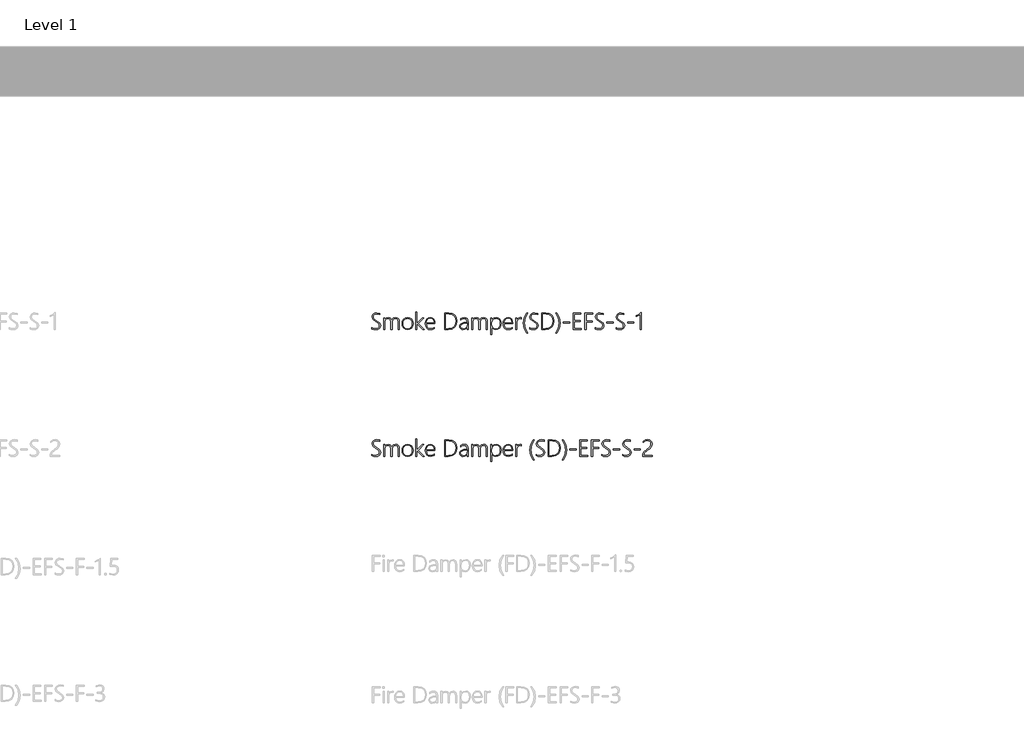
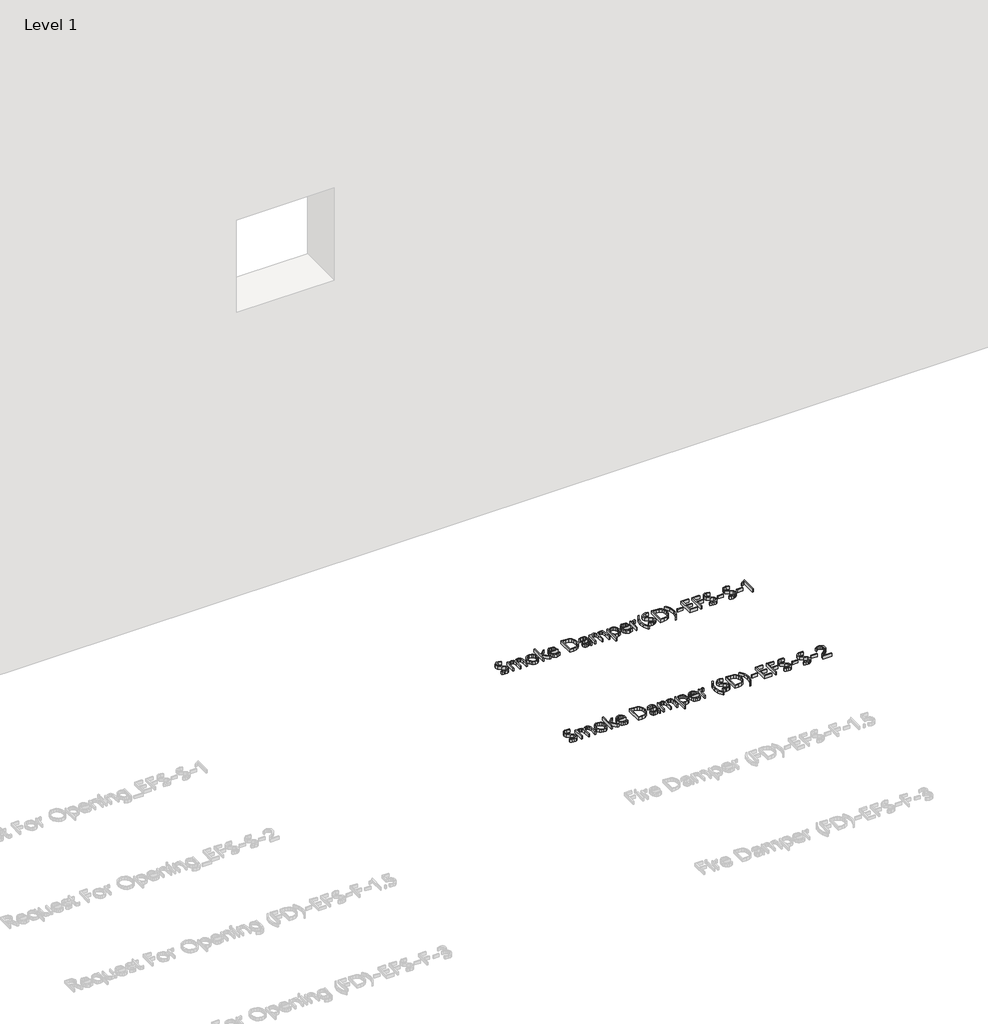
# One storey, part 13 of 13: 2 proxies.
"""IFC4 building model written with IfcOpenShell, lengths in millimetres."""

from ifc_helpers import new_model, si_unit, origin, origin_with_axes, place, context, project, spatial, polyline, outline, extrude, element, save

model = new_model("IFC4")

# Units and contexts
model_context = context("Model", 3, world=origin())
ifc_project = project(units=[si_unit("LENGTHUNIT", "METRE", prefix="MILLI")], contexts=[model_context])

# Site, building, storey
site = spatial("IfcSite", under=ifc_project)
building = spatial("IfcBuilding", under=site)
storey = spatial("IfcBuildingStorey", under=building, Name="Level 1", Elevation=0.0)

# Proxies
placement = place(None, origin())
element("IfcBuildingElementProxy", 1, Name="24\" Arial", ObjectType="24\" Arial", at=placement, inside=storey, context=model_context, shape_type="SweptSolid", body=[
    extrude(outline(polyline([(-11442.1825448, 9248.0391613), (-11442.1825448, 9255.8943909), (-11431.3741655, 9250.7840284), (-11420.4318902, 9249.0805743), (-11402.638605, 9253.9157062), (-11398.0861424, 9259.7215837), (-11396.5686548, 9267.4689527), (-11400.6599202, 9279.7129942), (-11418.3490641, 9292.1653184), (-11437.5854502, 9306.9980152), (-11441.6172063, 9320.7595443), (-11439.5604156, 9330.552546), (-11433.3900435, 9338.7462348), (-11423.7904471, 9344.2917591), (-11411.4459836, 9346.1402672), (-11393.5931891, 9343.1350468), (-11393.5931891, 9335.904665), (-11412.3386233, 9339.8620345), (-11428.480525, 9334.6996014), (-11432.9548817, 9328.8416532), (-11434.4463339, 9321.5926747), (-11430.3699458, 9309.3932651), (-11412.7551885, 9297.0450823), (-11394.0990182, 9282.9264973), (-11389.4572917, 9268.7484029), (-11391.4545731, 9258.2970795), (-11397.4464172, 9249.973214), (-11407.0832069, 9244.5281117), (-11420.015325, 9242.7130776), (-11431.9023107, 9244.3198291), (-11442.1825448, 9248.0391613)])), origin_with_axes(), (0.0, 0.0, 1.0), 20.0),
    extrude(outline(polyline([(-11280.4362264, 9244.4686024), (-11280.4362264, 9287.4343279), (-11284.6613878, 9306.3285354), (-11290.1139288, 9310.4123622), (-11298.021229, 9311.7736377), (-11305.8727393, 9309.9586036), (-11312.5861339, 9304.5135013), (-11317.1943865, 9296.3309705), (-11318.7304707, 9286.3036509), (-11318.7304707, 9244.4686024), (-11325.1574767, 9244.4686024), (-11325.1574767, 9287.9104024), (-11329.6876233, 9305.8078289), (-11335.3503066, 9310.2821855), (-11343.2780632, 9311.7736377), (-11351.2634694, 9309.951165), (-11357.7834587, 9304.4837467), (-11362.1239194, 9296.1226879), (-11363.5707396, 9285.6192938), (-11363.5707396, 9244.4686024), (-11369.9977456, 9244.4686024), (-11369.9977456, 9315.8797805), (-11363.5707396, 9315.8797805), (-11363.5707396, 9304.0374268), (-11354.1087585, 9314.2358357), (-11341.463029, 9317.6353053), (-11328.1180651, 9313.1274747), (-11320.6050141, 9301.2999983), (-11311.0240144, 9313.3357573), (-11297.4558905, 9317.6353053), (-11287.21099, 9315.8221308), (-11279.8932039, 9310.3826075), (-11275.5025323, 9301.3167353), (-11274.038975, 9288.6245142), (-11274.038975, 9244.4686024), (-11280.4362264, 9244.4686024)])), origin_with_axes(), (0.0, 0.0, 1.0), 20.0),
    extrude(outline(polyline([(-11223.2477746, 9242.7130776), (-11237.2399023, 9245.2868555), (-11247.973895, 9253.0081891), (-11254.8025889, 9264.8431041), (-11257.0788202, 9279.7576262), (-11254.6984476, 9295.6131394), (-11247.5573298, 9307.5931084), (-11236.5332292, 9315.1247561), (-11222.5039082, 9317.6353053), (-11208.820485, 9315.1396334), (-11198.3580036, 9307.6526177), (-11191.7189956, 9295.754474), (-11189.505993, 9280.0254181), (-11191.7636276, 9264.9472454), (-11198.5365315, 9253.0379438), (-11209.2296116, 9245.2942941), (-11223.2477746, 9242.7130776)]), holes=[polyline([(-11222.7717001, 9311.7736377), (-11234.1082246, 9309.6461797), (-11242.8858486, 9303.2638057), (-11248.5094789, 9293.0951515), (-11250.3840223, 9279.6088529), (-11248.5541109, 9266.9705622), (-11243.0643765, 9257.0845772), (-11234.3983325, 9250.7022031), (-11223.039492, 9248.5747451), (-11211.6323002, 9250.6687291), (-11203.1782581, 9256.9506812), (-11197.9451577, 9266.9445268), (-11196.2007909, 9280.1741914), (-11197.9339997, 9293.6642093), (-11203.1336261, 9303.6059843), (-11211.5095622, 9309.7317244), (-11222.7717001, 9311.7736377)])]), origin_with_axes(), (0.0, 0.0, 1.0), 20.0),
    extrude(outline(polyline([(-11131.0678455, 9244.4686024), (-11165.2559471, 9279.7576262), (-11165.523739, 9244.4686024), (-11171.950745, 9244.4686024), (-11171.950745, 9350.1869006), (-11165.523739, 9350.1869006), (-11165.523739, 9282.0487349), (-11132.8233703, 9315.8797805), (-11124.5218209, 9315.8797805), (-11158.4123758, 9281.3048684), (-11121.7843924, 9244.4686024), (-11131.0678455, 9244.4686024)])), origin_with_axes(), (0.0, 0.0, 1.0), 20.0),
    extrude(outline(polyline([(-11107.5616661, 9279.9063995), (-11105.8619313, 9266.7845955), (-11100.7627268, 9256.8762946), (-11092.702934, 9250.6501325), (-11082.1214339, 9248.5747451), (-11070.2493255, 9250.7914671), (-11058.6747637, 9257.4416331), (-11058.6747637, 9250.5980618), (-11070.4129761, 9244.6843237), (-11083.4306388, 9242.7130776), (-11095.9127177, 9245.1901528), (-11105.746632, 9252.6213786), (-11112.129006, 9264.5678736), (-11114.256464, 9280.5907566), (-11112.0323034, 9294.9845722), (-11105.3598214, 9306.9236286), (-11095.1316579, 9314.9573861), (-11082.2404525, 9317.6353053), (-11070.4836435, 9315.2958453), (-11061.8138801, 9308.2774655), (-11056.4691997, 9297.2198909), (-11054.6876396, 9282.7628466), (-11054.6876396, 9279.9063995), (-11107.5616661, 9279.9063995)]), holes=[polyline([(-11061.3824376, 9285.7680671), (-11063.0933304, 9296.717781), (-11067.3333691, 9304.9300665), (-11073.8868324, 9310.0627449), (-11082.5379991, 9311.7736377), (-11091.7061529, 9310.0887803), (-11099.1559753, 9305.0342078), (-11104.4857784, 9296.8479577), (-11107.2938742, 9285.7680671), (-11061.3824376, 9285.7680671)])]), origin_with_axes(), (0.0, 0.0, 1.0), 20.0),
    extrude(outline(polyline([(-10995.3568525, 9244.4686024), (-10995.3568525, 9344.4740064), (-10970.3034308, 9344.4740064), (-10948.4040029, 9341.3720833), (-10932.4555064, 9332.0663142), (-10922.7257334, 9316.8096135), (-10919.4824757, 9295.854896), (-10922.9600513, 9275.1493736), (-10933.3927781, 9258.7359607), (-10949.9475257, 9248.035442), (-10971.7911637, 9244.4686024), (-10995.3568525, 9244.4686024)]), holes=[polyline([(-10988.4537719, 9338.1362643), (-10988.4537719, 9250.7468351), (-10972.7433127, 9250.7468351), (-10953.0903614, 9253.6330369), (-10938.5849659, 9262.2916423), (-10929.6362526, 9276.3879113), (-10926.6533482, 9295.587104), (-10929.4465667, 9314.2023617), (-10937.8262221, 9327.4989743), (-10951.7923145, 9335.4769418), (-10971.3448438, 9338.1362643), (-10988.4537719, 9338.1362643)])]), origin_with_axes(), (0.0, 0.0, 1.0), 20.0),
    extrude(outline(polyline([(-10856.9381856, 9244.4686024), (-10856.9381856, 9258.750838), (-10867.1589105, 9247.0721349), (-10881.6345513, 9242.7130776), (-10890.7506346, 9244.1450205), (-10897.7466984, 9248.4408492), (-10902.198739, 9254.9162065), (-10903.6827526, 9262.8867354), (-10902.1355104, 9271.3054438), (-10897.4937838, 9277.8756441), (-10878.9268775, 9285.4705205), (-10856.9381856, 9288.7435328), (-10861.2600496, 9306.0161115), (-10866.6623796, 9310.3342562), (-10874.2256416, 9311.7736377), (-10885.87459, 9309.4007038), (-10897.1962372, 9302.281902), (-10897.1962372, 9310.018113), (-10886.4101739, 9315.403706), (-10873.6007938, 9317.6353053), (-10863.8375468, 9315.9244125), (-10856.5662524, 9310.7917341), (-10852.0472637, 9302.4009206), (-10850.5409342, 9290.9156228), (-10850.5409342, 9244.4686024), (-10856.9381856, 9244.4686024)]), holes=[polyline([(-10876.6060142, 9280.0254181), (-10892.3759827, 9274.8332304), (-10896.8986907, 9263.1545273), (-10892.6884066, 9252.6957652), (-10880.9204396, 9248.5747451), (-10871.4882131, 9250.4864819), (-10863.7817568, 9256.2216921), (-10858.6490784, 9264.9695614), (-10856.9381856, 9275.9192754), (-10856.9381856, 9282.8818653), (-10876.6060142, 9280.0254181)])]), origin_with_axes(), (0.0, 0.0, 1.0), 20.0),
    extrude(outline(polyline([(-10739.6155709, 9244.4686024), (-10739.6155709, 9287.4343279), (-10743.8407323, 9306.3285354), (-10749.2932733, 9310.4123622), (-10757.2005735, 9311.7736377), (-10765.0520838, 9309.9586036), (-10771.7654784, 9304.5135013), (-10776.3737309, 9296.3309705), (-10777.9098151, 9286.3036509), (-10777.9098151, 9244.4686024), (-10784.3368212, 9244.4686024), (-10784.3368212, 9287.9104024), (-10788.8669678, 9305.8078289), (-10794.529651, 9310.2821855), (-10802.4574076, 9311.7736377), (-10810.4428138, 9309.951165), (-10816.9628032, 9304.4837467), (-10821.3032638, 9296.1226879), (-10822.7500841, 9285.6192938), (-10822.7500841, 9244.4686024), (-10829.1770901, 9244.4686024), (-10829.1770901, 9315.8797805), (-10822.7500841, 9315.8797805), (-10822.7500841, 9304.0374268), (-10813.288103, 9314.2358357), (-10800.6423735, 9317.6353053), (-10787.2974096, 9313.1274747), (-10779.7843586, 9301.2999983), (-10770.2033588, 9313.3357573), (-10756.635235, 9317.6353053), (-10746.3903345, 9315.8221308), (-10739.0725484, 9310.3826075), (-10734.6818767, 9301.3167353), (-10733.2183195, 9288.6245142), (-10733.2183195, 9244.4686024), (-10739.6155709, 9244.4686024)])), origin_with_axes(), (0.0, 0.0, 1.0), 20.0),
    extrude(outline(polyline([(-10704.415811, 9257.1738412), (-10704.6836029, 9211.6194605), (-10711.110609, 9211.6194605), (-10711.110609, 9315.8797805), (-10704.6836029, 9315.8797805), (-10704.6836029, 9301.151225), (-10693.421465, 9313.3357573), (-10677.6961285, 9317.6353053), (-10665.5897022, 9315.2884067), (-10656.4661804, 9308.2477108), (-10650.7421281, 9297.1826976), (-10648.8341107, 9282.7628466), (-10651.021078, 9266.5428389), (-10657.58198, 9253.7669329), (-10667.7357569, 9245.4765414), (-10680.7013489, 9242.7130776), (-10694.6488447, 9246.3282685), (-10704.415811, 9257.1738412)]), holes=[polyline([(-10704.6836029, 9283.7447503), (-10704.6836029, 9274.7290891), (-10702.9913068, 9264.7464015), (-10697.9144183, 9256.2812014), (-10690.0852241, 9250.5013592), (-10680.1360105, 9248.5747451), (-10670.2165515, 9250.9216437), (-10662.3576026, 9257.9623396), (-10657.2360821, 9268.8190703), (-10655.5289087, 9282.6140734), (-10657.0984668, 9294.6275163), (-10661.8071414, 9303.8886535), (-10669.1267872, 9309.8023917), (-10678.5292589, 9311.7736377), (-10689.6091495, 9309.6796537), (-10697.854909, 9303.3977017), (-10702.9764295, 9294.2964958), (-10704.6836029, 9283.7447503)])]), origin_with_axes(), (0.0, 0.0, 1.0), 20.0),
    extrude(outline(polyline([(-10629.5828473, 9279.9063995), (-10627.8831125, 9266.7845955), (-10622.783908, 9256.8762946), (-10614.7241152, 9250.6501325), (-10604.1426151, 9248.5747451), (-10592.2705067, 9250.7914671), (-10580.6959449, 9257.4416331), (-10580.6959449, 9250.5980618), (-10592.4341573, 9244.6843237), (-10605.45182, 9242.7130776), (-10617.9338989, 9245.1901528), (-10627.7678132, 9252.6213786), (-10634.1501872, 9264.5678736), (-10636.2776452, 9280.5907566), (-10634.0534846, 9294.9845722), (-10627.3810026, 9306.9236286), (-10617.1528391, 9314.9573861), (-10604.2616337, 9317.6353053), (-10592.5048247, 9315.2958453), (-10583.8350613, 9308.2774655), (-10578.4903809, 9297.2198909), (-10576.7088208, 9282.7628466), (-10576.7088208, 9279.9063995), (-10629.5828473, 9279.9063995)]), holes=[polyline([(-10583.4036188, 9285.7680671), (-10585.1145116, 9296.717781), (-10589.3545503, 9304.9300665), (-10595.9080136, 9310.0627449), (-10604.5591803, 9311.7736377), (-10613.7273341, 9310.0887803), (-10621.1771565, 9305.0342078), (-10626.5069596, 9296.8479577), (-10629.3150554, 9285.7680671), (-10583.4036188, 9285.7680671)])]), origin_with_axes(), (0.0, 0.0, 1.0), 20.0),
    extrude(outline(polyline([(-10525.08449, 9309.1849825), (-10532.6124183, 9311.4760912), (-10540.3597873, 9309.2965625), (-10546.760758, 9302.7579765), (-10551.0565867, 9292.2099504), (-10552.4885296, 9278.0021014), (-10552.4885296, 9244.4686024), (-10558.7667623, 9244.4686024), (-10558.7667623, 9315.8797805), (-10552.4885296, 9315.8797805), (-10552.4885296, 9300.0503027), (-10544.454772, 9312.7406641), (-10532.1958531, 9317.2782494), (-10525.08449, 9316.0285538), (-10525.08449, 9309.1849825)])), origin_with_axes(), (0.0, 0.0, 1.0), 20.0),
    extrude(outline(polyline([(-10490.9856524, 9221.736044), (-10506.8300076, 9249.2665409), (-10512.1114593, 9282.4653001), (-10506.7630596, 9316.8021749), (-10490.7178605, 9344.4740064), (-10483.8742893, 9344.4740064), (-10500.2542283, 9316.4525576), (-10505.7142079, 9282.6140734), (-10500.3286149, 9250.062478), (-10484.1718359, 9221.736044), (-10490.9856524, 9221.736044)])), origin_with_axes(), (0.0, 0.0, 1.0), 20.0),
    extrude(outline(polyline([(-10472.8948207, 9248.0391613), (-10472.8948207, 9255.8943909), (-10462.0864413, 9250.7840284), (-10451.144166, 9249.0805743), (-10433.3508808, 9253.9157062), (-10428.7984182, 9259.7215837), (-10427.2809306, 9267.4689527), (-10431.372196, 9279.7129942), (-10449.06134, 9292.1653184), (-10468.2977261, 9306.9980152), (-10472.3294822, 9320.7595443), (-10470.2726915, 9330.552546), (-10464.1023193, 9338.7462348), (-10454.502723, 9344.2917591), (-10442.1582594, 9346.1402672), (-10424.3054649, 9343.1350468), (-10424.3054649, 9335.904665), (-10443.0508991, 9339.8620345), (-10459.1928009, 9334.6996014), (-10463.6671575, 9328.8416532), (-10465.1586097, 9321.5926747), (-10461.0822216, 9309.3932651), (-10443.4674643, 9297.0450823), (-10424.8112941, 9282.9264973), (-10420.1695675, 9268.7484029), (-10422.1668489, 9258.2970795), (-10428.158693, 9249.973214), (-10437.7954827, 9244.5281117), (-10450.7276008, 9242.7130776), (-10462.6145865, 9244.3198291), (-10472.8948207, 9248.0391613)])), origin_with_axes(), (0.0, 0.0, 1.0), 20.0),
    extrude(outline(polyline([(-10399.3115525, 9244.4686024), (-10399.3115525, 9344.4740064), (-10374.2581309, 9344.4740064), (-10352.3587029, 9341.3720833), (-10336.4102065, 9332.0663142), (-10326.6804335, 9316.8096135), (-10323.4371758, 9295.854896), (-10326.9147514, 9275.1493736), (-10337.3474782, 9258.7359607), (-10353.9022258, 9248.035442), (-10375.7458638, 9244.4686024), (-10399.3115525, 9244.4686024)]), holes=[polyline([(-10392.408472, 9338.1362643), (-10392.408472, 9250.7468351), (-10376.6980128, 9250.7468351), (-10357.0450615, 9253.6330369), (-10342.5396659, 9262.2916423), (-10333.5909527, 9276.3879113), (-10330.6080483, 9295.587104), (-10333.4012668, 9314.2023617), (-10341.7809222, 9327.4989743), (-10355.7470146, 9335.4769418), (-10375.2995439, 9338.1362643), (-10392.408472, 9338.1362643)])]), origin_with_axes(), (0.0, 0.0, 1.0), 20.0),
    extrude(outline(polyline([(-10306.2984931, 9221.736044), (-10313.1420643, 9221.736044), (-10296.9629693, 9250.062478), (-10291.5699376, 9282.6140734), (-10297.0299172, 9316.4525576), (-10313.4098562, 9344.4740064), (-10306.566285, 9344.4740064), (-10290.5210859, 9316.7277882), (-10285.1726862, 9282.4653001), (-10290.4541379, 9249.1921543), (-10306.2984931, 9221.736044)])), origin_with_axes(), (0.0, 0.0, 1.0), 20.0),
    extrude(outline(polyline([(-10264.9097644, 9283.1794118), (-10264.9097644, 9289.4576446), (-10226.7642934, 9289.4576446), (-10226.7642934, 9283.1794118), (-10264.9097644, 9283.1794118)])), origin_with_axes(), (0.0, 0.0, 1.0), 20.0),
    extrude(outline(polyline([(-10205.0731481, 9244.4686024), (-10205.0731481, 9344.4740064), (-10158.3285811, 9344.4740064), (-10158.3285811, 9338.1362643), (-10198.1700675, 9338.1362643), (-10198.1700675, 9298.026986), (-10161.2147829, 9298.026986), (-10161.2147829, 9291.7487532), (-10198.1700675, 9291.7487532), (-10198.1700675, 9250.7468351), (-10156.0374725, 9250.7468351), (-10156.0374725, 9244.4686024), (-10205.0731481, 9244.4686024)])), origin_with_axes(), (0.0, 0.0, 1.0), 20.0),
    extrude(outline(polyline([(-10125.8067404, 9338.1362643), (-10125.8067404, 9297.3426288), (-10088.8514557, 9297.3426288), (-10088.8514557, 9291.0643961), (-10125.8067404, 9291.0643961), (-10125.8067404, 9244.4686024), (-10132.7098209, 9244.4686024), (-10132.7098209, 9344.4740064), (-10085.9652539, 9344.4740064), (-10085.9652539, 9338.1362643), (-10125.8067404, 9338.1362643)])), origin_with_axes(), (0.0, 0.0, 1.0), 20.0),
    extrude(outline(polyline([(-10069.1836271, 9248.0391613), (-10069.1836271, 9255.8943909), (-10058.3752477, 9250.7840284), (-10047.4329724, 9249.0805743), (-10029.6396872, 9253.9157062), (-10025.0872246, 9259.7215837), (-10023.5697371, 9267.4689527), (-10027.6610025, 9279.7129942), (-10045.3501464, 9292.1653184), (-10064.5865325, 9306.9980152), (-10068.6182886, 9320.7595443), (-10066.5614979, 9330.552546), (-10060.3911258, 9338.7462348), (-10050.7915294, 9344.2917591), (-10038.4470658, 9346.1402672), (-10020.5942713, 9343.1350468), (-10020.5942713, 9335.904665), (-10039.3397056, 9339.8620345), (-10055.4816073, 9334.6996014), (-10059.9559639, 9328.8416532), (-10061.4474161, 9321.5926747), (-10057.371028, 9309.3932651), (-10039.7562708, 9297.0450823), (-10021.1001005, 9282.9264973), (-10016.4583739, 9268.7484029), (-10018.4556553, 9258.2970795), (-10024.4474995, 9249.973214), (-10034.0842892, 9244.5281117), (-10047.0164072, 9242.7130776), (-10058.9033929, 9244.3198291), (-10069.1836271, 9248.0391613)])), origin_with_axes(), (0.0, 0.0, 1.0), 20.0),
    extrude(outline(polyline([(-9998.3080328, 9283.1794118), (-9998.3080328, 9289.4576446), (-9960.1625618, 9289.4576446), (-9960.1625618, 9283.1794118), (-9998.3080328, 9283.1794118)])), origin_with_axes(), (0.0, 0.0, 1.0), 20.0),
    extrude(outline(polyline([(-9941.5956555, 9248.0391613), (-9941.5956555, 9255.8943909), (-9930.7872762, 9250.7840284), (-9919.8450009, 9249.0805743), (-9902.0517157, 9253.9157062), (-9897.4992531, 9259.7215837), (-9895.9817655, 9267.4689527), (-9900.0730309, 9279.7129942), (-9917.7621748, 9292.1653184), (-9936.9985609, 9306.9980152), (-9941.030317, 9320.7595443), (-9938.9735263, 9330.552546), (-9932.8031542, 9338.7462348), (-9923.2035578, 9344.2917591), (-9910.8590943, 9346.1402672), (-9893.0062998, 9343.1350468), (-9893.0062998, 9335.904665), (-9911.751734, 9339.8620345), (-9927.8936357, 9334.6996014), (-9932.3679924, 9328.8416532), (-9933.8594446, 9321.5926747), (-9929.7830565, 9309.3932651), (-9912.1682992, 9297.0450823), (-9893.5121289, 9282.9264973), (-9888.8704024, 9268.7484029), (-9890.8676838, 9258.2970795), (-9896.8595279, 9249.973214), (-9906.4963176, 9244.5281117), (-9919.4284357, 9242.7130776), (-9931.3154214, 9244.3198291), (-9941.5956555, 9248.0391613)])), origin_with_axes(), (0.0, 0.0, 1.0), 20.0),
    extrude(outline(polyline([(-9870.7200613, 9283.1794118), (-9870.7200613, 9289.4576446), (-9832.5745903, 9289.4576446), (-9832.5745903, 9283.1794118), (-9870.7200613, 9283.1794118)])), origin_with_axes(), (0.0, 0.0, 1.0), 20.0),
    extrude(outline(polyline([(-9787.0202096, 9346.7056057), (-9787.0202096, 9244.4686024), (-9793.4472156, 9244.4686024), (-9793.4472156, 9336.5890221), (-9804.4266843, 9328.6296512), (-9817.9055441, 9322.7233517), (-9817.9055441, 9328.5850193), (-9809.7676453, 9331.8877863), (-9802.5521408, 9335.9641743), (-9795.8573429, 9340.8736928), (-9789.2518089, 9346.7056057), (-9787.0202096, 9346.7056057)])), origin_with_axes(), (0.0, 0.0, 1.0), 20.0),
])
element("IfcBuildingElementProxy", 2, Name="24\" Arial", ObjectType="24\" Arial", at=placement, inside=storey, context=model_context, shape_type="SweptSolid", body=[
    extrude(outline(polyline([(-11442.1825448, 8468.0391613), (-11442.1825448, 8475.8943909), (-11431.3741655, 8470.7840284), (-11420.4318902, 8469.0805743), (-11402.638605, 8473.9157062), (-11398.0861424, 8479.7215837), (-11396.5686548, 8487.4689527), (-11400.6599202, 8499.7129942), (-11418.3490641, 8512.1653184), (-11437.5854502, 8526.9980152), (-11441.6172063, 8540.7595443), (-11439.5604156, 8550.552546), (-11433.3900435, 8558.7462348), (-11423.7904471, 8564.2917591), (-11411.4459836, 8566.1402672), (-11393.5931891, 8563.1350468), (-11393.5931891, 8555.904665), (-11412.3386233, 8559.8620345), (-11428.480525, 8554.6996014), (-11432.9548817, 8548.8416532), (-11434.4463339, 8541.5926747), (-11430.3699458, 8529.3932651), (-11412.7551885, 8517.0450823), (-11394.0990182, 8502.9264973), (-11389.4572917, 8488.7484029), (-11391.4545731, 8478.2970795), (-11397.4464172, 8469.973214), (-11407.0832069, 8464.5281117), (-11420.015325, 8462.7130776), (-11431.9023107, 8464.3198291), (-11442.1825448, 8468.0391613)])), origin_with_axes(), (0.0, 0.0, 1.0), 20.0),
    extrude(outline(polyline([(-11280.4362264, 8464.4686024), (-11280.4362264, 8507.4343279), (-11284.6613878, 8526.3285354), (-11290.1139288, 8530.4123622), (-11298.021229, 8531.7736377), (-11305.8727393, 8529.9586036), (-11312.5861339, 8524.5135013), (-11317.1943865, 8516.3309705), (-11318.7304707, 8506.3036509), (-11318.7304707, 8464.4686024), (-11325.1574767, 8464.4686024), (-11325.1574767, 8507.9104024), (-11329.6876233, 8525.8078289), (-11335.3503066, 8530.2821855), (-11343.2780632, 8531.7736377), (-11351.2634694, 8529.951165), (-11357.7834587, 8524.4837467), (-11362.1239194, 8516.1226879), (-11363.5707396, 8505.6192938), (-11363.5707396, 8464.4686024), (-11369.9977456, 8464.4686024), (-11369.9977456, 8535.8797805), (-11363.5707396, 8535.8797805), (-11363.5707396, 8524.0374268), (-11354.1087585, 8534.2358357), (-11341.463029, 8537.6353053), (-11328.1180651, 8533.1274747), (-11320.6050141, 8521.2999983), (-11311.0240144, 8533.3357573), (-11297.4558905, 8537.6353053), (-11287.21099, 8535.8221308), (-11279.8932039, 8530.3826075), (-11275.5025323, 8521.3167353), (-11274.038975, 8508.6245142), (-11274.038975, 8464.4686024), (-11280.4362264, 8464.4686024)])), origin_with_axes(), (0.0, 0.0, 1.0), 20.0),
    extrude(outline(polyline([(-11223.2477746, 8462.7130776), (-11237.2399023, 8465.2868555), (-11247.973895, 8473.0081891), (-11254.8025889, 8484.8431041), (-11257.0788202, 8499.7576262), (-11254.6984476, 8515.6131394), (-11247.5573298, 8527.5931084), (-11236.5332292, 8535.1247561), (-11222.5039082, 8537.6353053), (-11208.820485, 8535.1396334), (-11198.3580036, 8527.6526177), (-11191.7189956, 8515.754474), (-11189.505993, 8500.0254181), (-11191.7636276, 8484.9472454), (-11198.5365315, 8473.0379438), (-11209.2296116, 8465.2942941), (-11223.2477746, 8462.7130776)]), holes=[polyline([(-11222.7717001, 8531.7736377), (-11234.1082246, 8529.6461797), (-11242.8858486, 8523.2638057), (-11248.5094789, 8513.0951515), (-11250.3840223, 8499.6088529), (-11248.5541109, 8486.9705622), (-11243.0643765, 8477.0845772), (-11234.3983325, 8470.7022031), (-11223.039492, 8468.5747451), (-11211.6323002, 8470.6687291), (-11203.1782581, 8476.9506812), (-11197.9451577, 8486.9445268), (-11196.2007909, 8500.1741914), (-11197.9339997, 8513.6642093), (-11203.1336261, 8523.6059843), (-11211.5095622, 8529.7317244), (-11222.7717001, 8531.7736377)])]), origin_with_axes(), (0.0, 0.0, 1.0), 20.0),
    extrude(outline(polyline([(-11131.0678455, 8464.4686024), (-11165.2559471, 8499.7576262), (-11165.523739, 8464.4686024), (-11171.950745, 8464.4686024), (-11171.950745, 8570.1869006), (-11165.523739, 8570.1869006), (-11165.523739, 8502.0487349), (-11132.8233703, 8535.8797805), (-11124.5218209, 8535.8797805), (-11158.4123758, 8501.3048684), (-11121.7843924, 8464.4686024), (-11131.0678455, 8464.4686024)])), origin_with_axes(), (0.0, 0.0, 1.0), 20.0),
    extrude(outline(polyline([(-11107.5616661, 8499.9063995), (-11105.8619313, 8486.7845955), (-11100.7627268, 8476.8762946), (-11092.702934, 8470.6501325), (-11082.1214339, 8468.5747451), (-11070.2493255, 8470.7914671), (-11058.6747637, 8477.4416331), (-11058.6747637, 8470.5980618), (-11070.4129761, 8464.6843237), (-11083.4306388, 8462.7130776), (-11095.9127177, 8465.1901528), (-11105.746632, 8472.6213786), (-11112.129006, 8484.5678736), (-11114.256464, 8500.5907566), (-11112.0323034, 8514.9845722), (-11105.3598214, 8526.9236286), (-11095.1316579, 8534.9573861), (-11082.2404525, 8537.6353053), (-11070.4836435, 8535.2958453), (-11061.8138801, 8528.2774655), (-11056.4691997, 8517.2198909), (-11054.6876396, 8502.7628466), (-11054.6876396, 8499.9063995), (-11107.5616661, 8499.9063995)]), holes=[polyline([(-11061.3824376, 8505.7680671), (-11063.0933304, 8516.717781), (-11067.3333691, 8524.9300665), (-11073.8868324, 8530.0627449), (-11082.5379991, 8531.7736377), (-11091.7061529, 8530.0887803), (-11099.1559753, 8525.0342078), (-11104.4857784, 8516.8479577), (-11107.2938742, 8505.7680671), (-11061.3824376, 8505.7680671)])]), origin_with_axes(), (0.0, 0.0, 1.0), 20.0),
    extrude(outline(polyline([(-10995.3568525, 8464.4686024), (-10995.3568525, 8564.4740064), (-10970.3034308, 8564.4740064), (-10948.4040029, 8561.3720833), (-10932.4555064, 8552.0663142), (-10922.7257334, 8536.8096135), (-10919.4824757, 8515.854896), (-10922.9600513, 8495.1493736), (-10933.3927781, 8478.7359607), (-10949.9475257, 8468.035442), (-10971.7911637, 8464.4686024), (-10995.3568525, 8464.4686024)]), holes=[polyline([(-10988.4537719, 8558.1362643), (-10988.4537719, 8470.7468351), (-10972.7433127, 8470.7468351), (-10953.0903614, 8473.6330369), (-10938.5849659, 8482.2916423), (-10929.6362526, 8496.3879113), (-10926.6533482, 8515.587104), (-10929.4465667, 8534.2023617), (-10937.8262221, 8547.4989743), (-10951.7923145, 8555.4769418), (-10971.3448438, 8558.1362643), (-10988.4537719, 8558.1362643)])]), origin_with_axes(), (0.0, 0.0, 1.0), 20.0),
    extrude(outline(polyline([(-10856.9381856, 8464.4686024), (-10856.9381856, 8478.750838), (-10867.1589105, 8467.0721349), (-10881.6345513, 8462.7130776), (-10890.7506346, 8464.1450205), (-10897.7466984, 8468.4408492), (-10902.198739, 8474.9162065), (-10903.6827526, 8482.8867354), (-10902.1355104, 8491.3054438), (-10897.4937838, 8497.8756441), (-10878.9268775, 8505.4705205), (-10856.9381856, 8508.7435328), (-10861.2600496, 8526.0161115), (-10866.6623796, 8530.3342562), (-10874.2256416, 8531.7736377), (-10885.87459, 8529.4007038), (-10897.1962372, 8522.281902), (-10897.1962372, 8530.018113), (-10886.4101739, 8535.403706), (-10873.6007938, 8537.6353053), (-10863.8375468, 8535.9244125), (-10856.5662524, 8530.7917341), (-10852.0472637, 8522.4009206), (-10850.5409342, 8510.9156228), (-10850.5409342, 8464.4686024), (-10856.9381856, 8464.4686024)]), holes=[polyline([(-10876.6060142, 8500.0254181), (-10892.3759827, 8494.8332304), (-10896.8986907, 8483.1545273), (-10892.6884066, 8472.6957652), (-10880.9204396, 8468.5747451), (-10871.4882131, 8470.4864819), (-10863.7817568, 8476.2216921), (-10858.6490784, 8484.9695614), (-10856.9381856, 8495.9192754), (-10856.9381856, 8502.8818653), (-10876.6060142, 8500.0254181)])]), origin_with_axes(), (0.0, 0.0, 1.0), 20.0),
    extrude(outline(polyline([(-10739.6155709, 8464.4686024), (-10739.6155709, 8507.4343279), (-10743.8407323, 8526.3285354), (-10749.2932733, 8530.4123622), (-10757.2005735, 8531.7736377), (-10765.0520838, 8529.9586036), (-10771.7654784, 8524.5135013), (-10776.3737309, 8516.3309705), (-10777.9098151, 8506.3036509), (-10777.9098151, 8464.4686024), (-10784.3368212, 8464.4686024), (-10784.3368212, 8507.9104024), (-10788.8669678, 8525.8078289), (-10794.529651, 8530.2821855), (-10802.4574076, 8531.7736377), (-10810.4428138, 8529.951165), (-10816.9628032, 8524.4837467), (-10821.3032638, 8516.1226879), (-10822.7500841, 8505.6192938), (-10822.7500841, 8464.4686024), (-10829.1770901, 8464.4686024), (-10829.1770901, 8535.8797805), (-10822.7500841, 8535.8797805), (-10822.7500841, 8524.0374268), (-10813.288103, 8534.2358357), (-10800.6423735, 8537.6353053), (-10787.2974096, 8533.1274747), (-10779.7843586, 8521.2999983), (-10770.2033588, 8533.3357573), (-10756.635235, 8537.6353053), (-10746.3903345, 8535.8221308), (-10739.0725484, 8530.3826075), (-10734.6818767, 8521.3167353), (-10733.2183195, 8508.6245142), (-10733.2183195, 8464.4686024), (-10739.6155709, 8464.4686024)])), origin_with_axes(), (0.0, 0.0, 1.0), 20.0),
    extrude(outline(polyline([(-10704.415811, 8477.1738412), (-10704.6836029, 8431.6194605), (-10711.110609, 8431.6194605), (-10711.110609, 8535.8797805), (-10704.6836029, 8535.8797805), (-10704.6836029, 8521.151225), (-10693.421465, 8533.3357573), (-10677.6961285, 8537.6353053), (-10665.5897022, 8535.2884067), (-10656.4661804, 8528.2477108), (-10650.7421281, 8517.1826976), (-10648.8341107, 8502.7628466), (-10651.021078, 8486.5428389), (-10657.58198, 8473.7669329), (-10667.7357569, 8465.4765414), (-10680.7013489, 8462.7130776), (-10694.6488447, 8466.3282685), (-10704.415811, 8477.1738412)]), holes=[polyline([(-10704.6836029, 8503.7447503), (-10704.6836029, 8494.7290891), (-10702.9913068, 8484.7464015), (-10697.9144183, 8476.2812014), (-10690.0852241, 8470.5013592), (-10680.1360105, 8468.5747451), (-10670.2165515, 8470.9216437), (-10662.3576026, 8477.9623396), (-10657.2360821, 8488.8190703), (-10655.5289087, 8502.6140734), (-10657.0984668, 8514.6275163), (-10661.8071414, 8523.8886535), (-10669.1267872, 8529.8023917), (-10678.5292589, 8531.7736377), (-10689.6091495, 8529.6796537), (-10697.854909, 8523.3977017), (-10702.9764295, 8514.2964958), (-10704.6836029, 8503.7447503)])]), origin_with_axes(), (0.0, 0.0, 1.0), 20.0),
    extrude(outline(polyline([(-10629.5828473, 8499.9063995), (-10627.8831125, 8486.7845955), (-10622.783908, 8476.8762946), (-10614.7241152, 8470.6501325), (-10604.1426151, 8468.5747451), (-10592.2705067, 8470.7914671), (-10580.6959449, 8477.4416331), (-10580.6959449, 8470.5980618), (-10592.4341573, 8464.6843237), (-10605.45182, 8462.7130776), (-10617.9338989, 8465.1901528), (-10627.7678132, 8472.6213786), (-10634.1501872, 8484.5678736), (-10636.2776452, 8500.5907566), (-10634.0534846, 8514.9845722), (-10627.3810026, 8526.9236286), (-10617.1528391, 8534.9573861), (-10604.2616337, 8537.6353053), (-10592.5048247, 8535.2958453), (-10583.8350613, 8528.2774655), (-10578.4903809, 8517.2198909), (-10576.7088208, 8502.7628466), (-10576.7088208, 8499.9063995), (-10629.5828473, 8499.9063995)]), holes=[polyline([(-10583.4036188, 8505.7680671), (-10585.1145116, 8516.717781), (-10589.3545503, 8524.9300665), (-10595.9080136, 8530.0627449), (-10604.5591803, 8531.7736377), (-10613.7273341, 8530.0887803), (-10621.1771565, 8525.0342078), (-10626.5069596, 8516.8479577), (-10629.3150554, 8505.7680671), (-10583.4036188, 8505.7680671)])]), origin_with_axes(), (0.0, 0.0, 1.0), 20.0),
    extrude(outline(polyline([(-10525.08449, 8529.1849825), (-10532.6124183, 8531.4760912), (-10540.3597873, 8529.2965625), (-10546.760758, 8522.7579765), (-10551.0565867, 8512.2099504), (-10552.4885296, 8498.0021014), (-10552.4885296, 8464.4686024), (-10558.7667623, 8464.4686024), (-10558.7667623, 8535.8797805), (-10552.4885296, 8535.8797805), (-10552.4885296, 8520.0503027), (-10544.454772, 8532.7406641), (-10532.1958531, 8537.2782494), (-10525.08449, 8536.0285538), (-10525.08449, 8529.1849825)])), origin_with_axes(), (0.0, 0.0, 1.0), 20.0),
    extrude(outline(polyline([(-10450.9953927, 8441.736044), (-10466.8397478, 8469.2665409), (-10472.1211996, 8502.4653001), (-10466.7727999, 8536.8021749), (-10450.7276008, 8564.4740064), (-10443.8840295, 8564.4740064), (-10460.2639685, 8536.4525576), (-10465.7239482, 8502.6140734), (-10460.3383552, 8470.062478), (-10444.1815761, 8441.736044), (-10450.9953927, 8441.736044)])), origin_with_axes(), (0.0, 0.0, 1.0), 20.0),
    extrude(outline(polyline([(-10432.9045609, 8468.0391613), (-10432.9045609, 8475.8943909), (-10422.0961816, 8470.7840284), (-10411.1539062, 8469.0805743), (-10393.360621, 8473.9157062), (-10388.8081584, 8479.7215837), (-10387.2906709, 8487.4689527), (-10391.3819363, 8499.7129942), (-10409.0710802, 8512.1653184), (-10428.3074663, 8526.9980152), (-10432.3392224, 8540.7595443), (-10430.2824317, 8550.552546), (-10424.1120596, 8558.7462348), (-10414.5124632, 8564.2917591), (-10402.1679997, 8566.1402672), (-10384.3152051, 8563.1350468), (-10384.3152051, 8555.904665), (-10403.0606394, 8559.8620345), (-10419.2025411, 8554.6996014), (-10423.6768977, 8548.8416532), (-10425.16835, 8541.5926747), (-10421.0919619, 8529.3932651), (-10403.4772046, 8517.0450823), (-10384.8210343, 8502.9264973), (-10380.1793077, 8488.7484029), (-10382.1765891, 8478.2970795), (-10388.1684333, 8469.973214), (-10397.805223, 8464.5281117), (-10410.737341, 8462.7130776), (-10422.6243267, 8464.3198291), (-10432.9045609, 8468.0391613)])), origin_with_axes(), (0.0, 0.0, 1.0), 20.0),
    extrude(outline(polyline([(-10359.3212928, 8464.4686024), (-10359.3212928, 8564.4740064), (-10334.2678712, 8564.4740064), (-10312.3684432, 8561.3720833), (-10296.4199468, 8552.0663142), (-10286.6901737, 8536.8096135), (-10283.4469161, 8515.854896), (-10286.9244917, 8495.1493736), (-10297.3572185, 8478.7359607), (-10313.9119661, 8468.035442), (-10335.755604, 8464.4686024), (-10359.3212928, 8464.4686024)]), holes=[polyline([(-10352.4182123, 8558.1362643), (-10352.4182123, 8470.7468351), (-10336.7077531, 8470.7468351), (-10317.0548018, 8473.6330369), (-10302.5494062, 8482.2916423), (-10293.600693, 8496.3879113), (-10290.6177885, 8515.587104), (-10293.411007, 8534.2023617), (-10301.7906624, 8547.4989743), (-10315.7567548, 8555.4769418), (-10335.3092842, 8558.1362643), (-10352.4182123, 8558.1362643)])]), origin_with_axes(), (0.0, 0.0, 1.0), 20.0),
    extrude(outline(polyline([(-10266.3082333, 8441.736044), (-10273.1518046, 8441.736044), (-10256.9727095, 8470.062478), (-10251.5796778, 8502.6140734), (-10257.0396575, 8536.4525576), (-10273.4195965, 8564.4740064), (-10266.5760252, 8564.4740064), (-10250.5308262, 8536.7277882), (-10245.1824265, 8502.4653001), (-10250.4638782, 8469.1921543), (-10266.3082333, 8441.736044)])), origin_with_axes(), (0.0, 0.0, 1.0), 20.0),
    extrude(outline(polyline([(-10224.9195047, 8503.1794118), (-10224.9195047, 8509.4576446), (-10186.7740337, 8509.4576446), (-10186.7740337, 8503.1794118), (-10224.9195047, 8503.1794118)])), origin_with_axes(), (0.0, 0.0, 1.0), 20.0),
    extrude(outline(polyline([(-10165.0828884, 8464.4686024), (-10165.0828884, 8564.4740064), (-10118.3383213, 8564.4740064), (-10118.3383213, 8558.1362643), (-10158.1798078, 8558.1362643), (-10158.1798078, 8518.026986), (-10121.2245231, 8518.026986), (-10121.2245231, 8511.7487532), (-10158.1798078, 8511.7487532), (-10158.1798078, 8470.7468351), (-10116.0472127, 8470.7468351), (-10116.0472127, 8464.4686024), (-10165.0828884, 8464.4686024)])), origin_with_axes(), (0.0, 0.0, 1.0), 20.0),
    extrude(outline(polyline([(-10085.8164807, 8558.1362643), (-10085.8164807, 8517.3426288), (-10048.861196, 8517.3426288), (-10048.861196, 8511.0643961), (-10085.8164807, 8511.0643961), (-10085.8164807, 8464.4686024), (-10092.7195612, 8464.4686024), (-10092.7195612, 8564.4740064), (-10045.9749942, 8564.4740064), (-10045.9749942, 8558.1362643), (-10085.8164807, 8558.1362643)])), origin_with_axes(), (0.0, 0.0, 1.0), 20.0),
    extrude(outline(polyline([(-10029.1933673, 8468.0391613), (-10029.1933673, 8475.8943909), (-10018.384988, 8470.7840284), (-10007.4427127, 8469.0805743), (-9989.6494275, 8473.9157062), (-9985.0969649, 8479.7215837), (-9983.5794773, 8487.4689527), (-9987.6707427, 8499.7129942), (-10005.3598867, 8512.1653184), (-10024.5962728, 8526.9980152), (-10028.6280289, 8540.7595443), (-10026.5712381, 8550.552546), (-10020.400866, 8558.7462348), (-10010.8012696, 8564.2917591), (-9998.4568061, 8566.1402672), (-9980.6040116, 8563.1350468), (-9980.6040116, 8555.904665), (-9999.3494458, 8559.8620345), (-10015.4913475, 8554.6996014), (-10019.9657042, 8548.8416532), (-10021.4571564, 8541.5926747), (-10017.3807683, 8529.3932651), (-9999.766011, 8517.0450823), (-9981.1098408, 8502.9264973), (-9976.4681142, 8488.7484029), (-9978.4653956, 8478.2970795), (-9984.4572397, 8469.973214), (-9994.0940294, 8464.5281117), (-10007.0261475, 8462.7130776), (-10018.9131332, 8464.3198291), (-10029.1933673, 8468.0391613)])), origin_with_axes(), (0.0, 0.0, 1.0), 20.0),
    extrude(outline(polyline([(-9958.3177731, 8503.1794118), (-9958.3177731, 8509.4576446), (-9920.1723021, 8509.4576446), (-9920.1723021, 8503.1794118), (-9958.3177731, 8503.1794118)])), origin_with_axes(), (0.0, 0.0, 1.0), 20.0),
    extrude(outline(polyline([(-9901.6053958, 8468.0391613), (-9901.6053958, 8475.8943909), (-9890.7970164, 8470.7840284), (-9879.8547411, 8469.0805743), (-9862.0614559, 8473.9157062), (-9857.5089933, 8479.7215837), (-9855.9915058, 8487.4689527), (-9860.0827712, 8499.7129942), (-9877.7719151, 8512.1653184), (-9897.0083012, 8526.9980152), (-9901.0400573, 8540.7595443), (-9898.9832666, 8550.552546), (-9892.8128945, 8558.7462348), (-9883.2132981, 8564.2917591), (-9870.8688345, 8566.1402672), (-9853.01604, 8563.1350468), (-9853.01604, 8555.904665), (-9871.7614743, 8559.8620345), (-9887.903376, 8554.6996014), (-9892.3777326, 8548.8416532), (-9893.8691848, 8541.5926747), (-9889.7927967, 8529.3932651), (-9872.1780395, 8517.0450823), (-9853.5218692, 8502.9264973), (-9848.8801426, 8488.7484029), (-9850.877424, 8478.2970795), (-9856.8692682, 8469.973214), (-9866.5060579, 8464.5281117), (-9879.4381759, 8462.7130776), (-9891.3251616, 8464.3198291), (-9901.6053958, 8468.0391613)])), origin_with_axes(), (0.0, 0.0, 1.0), 20.0),
    extrude(outline(polyline([(-9830.7298015, 8503.1794118), (-9830.7298015, 8509.4576446), (-9792.5843305, 8509.4576446), (-9792.5843305, 8503.1794118), (-9830.7298015, 8503.1794118)])), origin_with_axes(), (0.0, 0.0, 1.0), 20.0),
    extrude(outline(polyline([(-9777.0226447, 8464.4686024), (-9777.0226447, 8469.1400836), (-9776.2490236, 8477.5457744), (-9773.9132829, 8484.4191003), (-9770.0154228, 8490.3105225), (-9764.5703205, 8495.8151341), (-9757.5184666, 8501.468519), (-9748.9044933, 8507.7616291), (-9740.4392932, 8514.2630218), (-9733.5659673, 8521.1661023), (-9728.9391181, 8529.2891238), (-9727.2431026, 8539.4503394), (-9728.6118168, 8548.2279634), (-9732.7179596, 8554.8037427), (-9739.2937389, 8558.9098854), (-9748.0713629, 8560.2785997), (-9760.9848842, 8557.3477659), (-9773.1247845, 8549.2098671), (-9773.1247845, 8556.7377954), (-9760.7766016, 8563.6259987), (-9746.9704405, 8566.1402672), (-9736.0802359, 8564.3252331), (-9727.7489318, 8559.1628), (-9722.4228481, 8551.0844105), (-9720.5483046, 8540.4917524), (-9722.5269894, 8528.2477108), (-9727.9274597, 8518.5476925), (-9735.9165853, 8510.5288123), (-9745.5719716, 8503.2389212), (-9756.9977601, 8494.6993344), (-9764.6000751, 8487.4243207), (-9768.8252365, 8480.0897976), (-9770.1195641, 8471.3716829), (-9720.3995313, 8470.3302699), (-9720.3995313, 8464.4686024), (-9777.0226447, 8464.4686024)])), origin_with_axes(), (0.0, 0.0, 1.0), 20.0),
])

save(model, "model.ifc")
